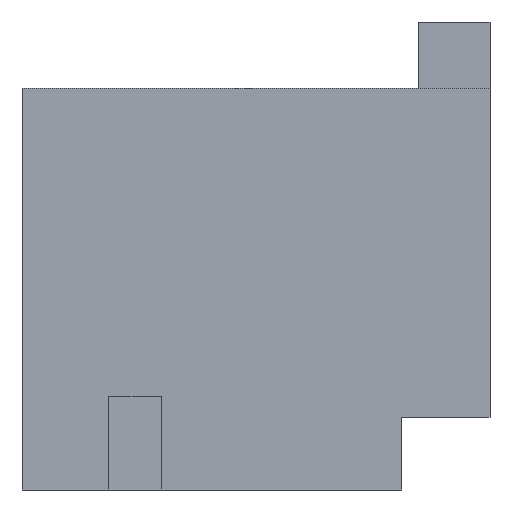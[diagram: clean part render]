
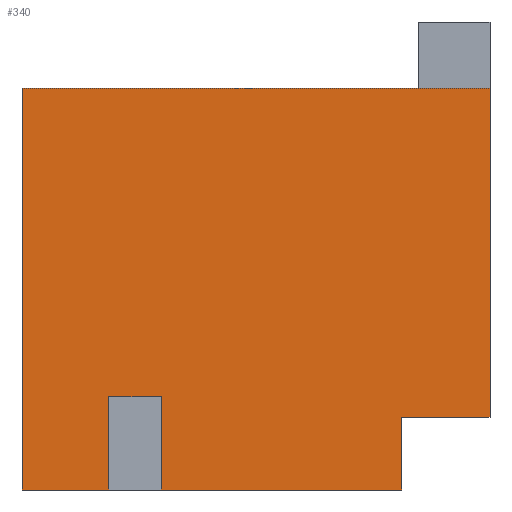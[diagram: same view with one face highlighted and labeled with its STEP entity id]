
A CAD part, front view. The second image highlights one B-rep face of the part: STEP entity #340.
In plain terms, the highlighted planar face has unit normal (0, -1, 0).
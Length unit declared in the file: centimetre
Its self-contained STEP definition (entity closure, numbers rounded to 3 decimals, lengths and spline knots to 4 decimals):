
#8 = VECTOR ( 'NONE', #880, 100. ) ;
#30 = EDGE_LOOP ( 'NONE', ( #645, #825, #803, #970, #430, #69, #1152, #742, #1071, #31 ) ) ;
#31 = ORIENTED_EDGE ( 'NONE', *, *, #1008, .F. ) ;
#69 = ORIENTED_EDGE ( 'NONE', *, *, #448, .T. ) ;
#79 = FACE_OUTER_BOUND ( 'NONE', #30, .T. ) ;
#83 = EDGE_CURVE ( 'NONE', #292, #220, #675, .T. ) ;
#90 = CARTESIAN_POINT ( 'NONE',  ( 0., 0., 1000. ) ) ;
#102 = CARTESIAN_POINT ( 'NONE',  ( 0., 0., 858.3616 ) ) ;
#117 = CARTESIAN_POINT ( 'NONE',  ( 0., 0., 0. ) ) ;
#150 = LINE ( 'NONE', #318, #385 ) ;
#173 = VECTOR ( 'NONE', #609, 100. ) ;
#188 = CARTESIAN_POINT ( 'NONE',  ( 0., 0., 0. ) ) ;
#195 = LINE ( 'NONE', #188, #748 ) ;
#220 = VERTEX_POINT ( 'NONE', #471 ) ;
#233 = DIRECTION ( 'NONE',  ( 0., 0., -1. ) ) ;
#251 = VECTOR ( 'NONE', #369, 100. ) ;
#257 = DIRECTION ( 'NONE',  ( 0., 1., 0. ) ) ;
#271 = VECTOR ( 'NONE', #974, 100. ) ;
#285 = LINE ( 'NONE', #117, #251 ) ;
#292 = VERTEX_POINT ( 'NONE', #750 ) ;
#296 = CARTESIAN_POINT ( 'NONE',  ( 297.5855, 0., 0. ) ) ;
#311 = DIRECTION ( 'NONE',  ( 1., 0., 0. ) ) ;
#314 = VECTOR ( 'NONE', #855, 100. ) ;
#318 = CARTESIAN_POINT ( 'NONE',  ( 185.4653, 0., 0. ) ) ;
#333 = CARTESIAN_POINT ( 'NONE',  ( 185.4653, 0., 199.1194 ) ) ;
#340 = ADVANCED_FACE ( 'NONE', ( #79 ), #843, .F. ) ;
#369 = DIRECTION ( 'NONE',  ( 1., 0., 0. ) ) ;
#378 = CARTESIAN_POINT ( 'NONE',  ( 0., 0., 0. ) ) ;
#385 = VECTOR ( 'NONE', #233, 100. ) ;
#422 = LINE ( 'NONE', #1207, #1220 ) ;
#428 = EDGE_CURVE ( 'NONE', #220, #1252, #822, .T. ) ;
#430 = ORIENTED_EDGE ( 'NONE', *, *, #628, .F. ) ;
#436 = CARTESIAN_POINT ( 'NONE',  ( 297.5855, 0., 0. ) ) ;
#448 = EDGE_CURVE ( 'NONE', #608, #941, #1190, .T. ) ;
#455 = CARTESIAN_POINT ( 'NONE',  ( 811.0868, 0., 155.2364 ) ) ;
#471 = CARTESIAN_POINT ( 'NONE',  ( 811.0868, 0., 155.2364 ) ) ;
#496 = LINE ( 'NONE', #692, #8 ) ;
#540 = CARTESIAN_POINT ( 'NONE',  ( 1000., 0., 155.2364 ) ) ;
#590 = LINE ( 'NONE', #102, #314 ) ;
#608 = VERTEX_POINT ( 'NONE', #1151 ) ;
#609 = DIRECTION ( 'NONE',  ( 0., 0., -1. ) ) ;
#628 = EDGE_CURVE ( 'NONE', #608, #1020, #590, .T. ) ;
#637 = EDGE_CURVE ( 'NONE', #941, #1016, #285, .T. ) ;
#645 = ORIENTED_EDGE ( 'NONE', *, *, #1037, .T. ) ;
#675 = LINE ( 'NONE', #767, #271 ) ;
#692 = CARTESIAN_POINT ( 'NONE',  ( 185.4653, 0., 199.1194 ) ) ;
#718 = DIRECTION ( 'NONE',  ( 0., 0., -1. ) ) ;
#742 = ORIENTED_EDGE ( 'NONE', *, *, #1114, .F. ) ;
#748 = VECTOR ( 'NONE', #311, 100. ) ;
#750 = CARTESIAN_POINT ( 'NONE',  ( 811.0868, 0., 0. ) ) ;
#754 = EDGE_CURVE ( 'NONE', #1224, #1179, #496, .T. ) ;
#758 = CARTESIAN_POINT ( 'NONE',  ( 185.4653, 0., 0. ) ) ;
#767 = CARTESIAN_POINT ( 'NONE',  ( 811.0868, 0., 0. ) ) ;
#797 = AXIS2_PLACEMENT_3D ( 'NONE', #90, #257, #1036 ) ;
#803 = ORIENTED_EDGE ( 'NONE', *, *, #428, .T. ) ;
#810 = CARTESIAN_POINT ( 'NONE',  ( 297.5855, 0., 199.1194 ) ) ;
#822 = LINE ( 'NONE', #455, #901 ) ;
#825 = ORIENTED_EDGE ( 'NONE', *, *, #83, .T. ) ;
#843 = PLANE ( 'NONE',  #797 ) ;
#849 = DIRECTION ( 'NONE',  ( 1., 0., 0. ) ) ;
#855 = DIRECTION ( 'NONE',  ( 1., 0., 0. ) ) ;
#878 = DIRECTION ( 'NONE',  ( 0., 0., 1. ) ) ;
#880 = DIRECTION ( 'NONE',  ( -1., 0., 0. ) ) ;
#886 = CARTESIAN_POINT ( 'NONE',  ( 1000., 0., 858.3616 ) ) ;
#900 = EDGE_CURVE ( 'NONE', #1020, #1252, #422, .T. ) ;
#901 = VECTOR ( 'NONE', #849, 100. ) ;
#915 = VECTOR ( 'NONE', #878, 100. ) ;
#941 = VERTEX_POINT ( 'NONE', #378 ) ;
#970 = ORIENTED_EDGE ( 'NONE', *, *, #900, .F. ) ;
#974 = DIRECTION ( 'NONE',  ( 0., 0., 1. ) ) ;
#1008 = EDGE_CURVE ( 'NONE', #1246, #1224, #1154, .T. ) ;
#1016 = VERTEX_POINT ( 'NONE', #758 ) ;
#1020 = VERTEX_POINT ( 'NONE', #886 ) ;
#1036 = DIRECTION ( 'NONE',  ( 0., 0., 1. ) ) ;
#1037 = EDGE_CURVE ( 'NONE', #1246, #292, #195, .T. ) ;
#1071 = ORIENTED_EDGE ( 'NONE', *, *, #754, .F. ) ;
#1087 = CARTESIAN_POINT ( 'NONE',  ( 0., 0., 1000. ) ) ;
#1114 = EDGE_CURVE ( 'NONE', #1179, #1016, #150, .T. ) ;
#1151 = CARTESIAN_POINT ( 'NONE',  ( 0., 0., 858.3616 ) ) ;
#1152 = ORIENTED_EDGE ( 'NONE', *, *, #637, .T. ) ;
#1154 = LINE ( 'NONE', #296, #915 ) ;
#1179 = VERTEX_POINT ( 'NONE', #333 ) ;
#1190 = LINE ( 'NONE', #1087, #173 ) ;
#1207 = CARTESIAN_POINT ( 'NONE',  ( 1000., 0., 1000. ) ) ;
#1220 = VECTOR ( 'NONE', #718, 100. ) ;
#1224 = VERTEX_POINT ( 'NONE', #810 ) ;
#1246 = VERTEX_POINT ( 'NONE', #436 ) ;
#1252 = VERTEX_POINT ( 'NONE', #540 ) ;
